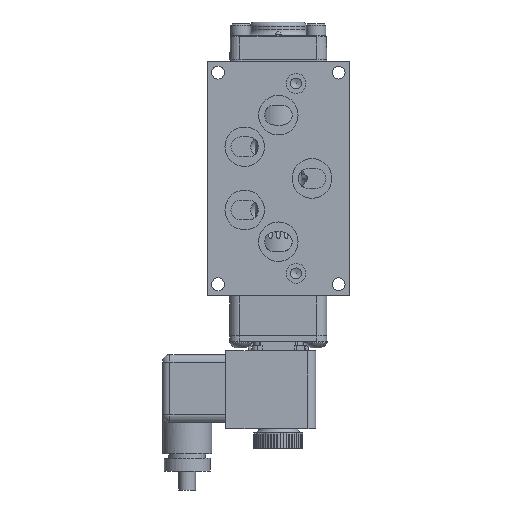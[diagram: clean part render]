
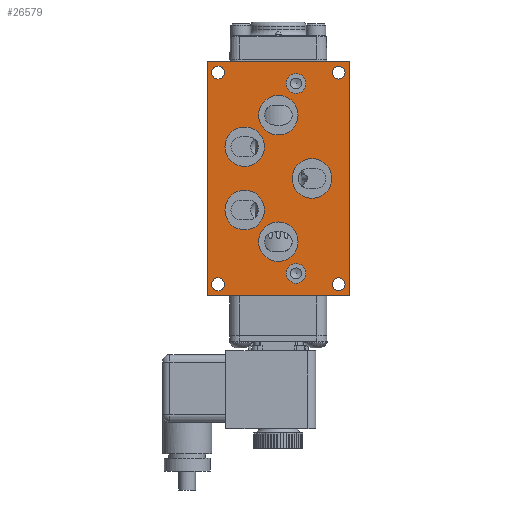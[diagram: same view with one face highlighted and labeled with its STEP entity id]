
A CAD part, front view. The second image highlights one B-rep face of the part: STEP entity #26579.
In plain terms, the highlighted planar face has unit normal (0, -1, 0).
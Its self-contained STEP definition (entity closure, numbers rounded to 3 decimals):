
#382=FACE_BOUND('',#4471,.T.);
#383=FACE_BOUND('',#4472,.T.);
#384=FACE_BOUND('',#4473,.T.);
#385=FACE_BOUND('',#4474,.T.);
#386=FACE_BOUND('',#4475,.T.);
#387=FACE_BOUND('',#4476,.T.);
#388=FACE_BOUND('',#4477,.T.);
#389=FACE_BOUND('',#4478,.T.);
#390=FACE_BOUND('',#4479,.T.);
#391=FACE_BOUND('',#4480,.T.);
#392=FACE_BOUND('',#4481,.T.);
#1227=CIRCLE('',#28413,0.396);
#1228=CIRCLE('',#28414,0.396);
#1234=CIRCLE('',#28424,0.396);
#1235=CIRCLE('',#28425,0.396);
#1238=CIRCLE('',#28431,0.794);
#1239=CIRCLE('',#28432,0.794);
#1242=CIRCLE('',#28437,0.794);
#1243=CIRCLE('',#28438,0.794);
#1246=CIRCLE('',#28443,0.794);
#1247=CIRCLE('',#28444,0.794);
#1250=CIRCLE('',#28449,0.794);
#1251=CIRCLE('',#28450,0.794);
#1254=CIRCLE('',#28455,0.794);
#1255=CIRCLE('',#28456,0.794);
#1258=CIRCLE('',#28461,0.258);
#1261=CIRCLE('',#28466,0.258);
#1264=CIRCLE('',#28471,0.258);
#1267=CIRCLE('',#28476,0.258);
#2891=FACE_OUTER_BOUND('',#4470,.T.);
#4470=EDGE_LOOP('',(#17962,#17963,#17964,#17965));
#4471=EDGE_LOOP('',(#17966,#17967));
#4472=EDGE_LOOP('',(#17968,#17969));
#4473=EDGE_LOOP('',(#17970,#17971));
#4474=EDGE_LOOP('',(#17972,#17973));
#4475=EDGE_LOOP('',(#17974,#17975));
#4476=EDGE_LOOP('',(#17976,#17977));
#4477=EDGE_LOOP('',(#17978,#17979));
#4478=EDGE_LOOP('',(#17980));
#4479=EDGE_LOOP('',(#17981));
#4480=EDGE_LOOP('',(#17982));
#4481=EDGE_LOOP('',(#17983));
#6157=LINE('',#40203,#7975);
#6168=LINE('',#40233,#7986);
#6287=LINE('',#41227,#8105);
#6288=LINE('',#41231,#8106);
#7975=VECTOR('',#31845,1.);
#7986=VECTOR('',#31866,1.);
#8105=VECTOR('',#32529,1.);
#8106=VECTOR('',#32536,1.);
#10379=VERTEX_POINT('',#40199);
#10381=VERTEX_POINT('',#40202);
#10393=VERTEX_POINT('',#40229);
#10395=VERTEX_POINT('',#40232);
#10551=VERTEX_POINT('',#41080);
#10552=VERTEX_POINT('',#41081);
#10559=VERTEX_POINT('',#41102);
#10560=VERTEX_POINT('',#41103);
#10563=VERTEX_POINT('',#41115);
#10564=VERTEX_POINT('',#41116);
#10567=VERTEX_POINT('',#41126);
#10568=VERTEX_POINT('',#41127);
#10571=VERTEX_POINT('',#41137);
#10572=VERTEX_POINT('',#41138);
#10575=VERTEX_POINT('',#41148);
#10576=VERTEX_POINT('',#41149);
#10579=VERTEX_POINT('',#41159);
#10580=VERTEX_POINT('',#41160);
#10584=VERTEX_POINT('',#41173);
#10588=VERTEX_POINT('',#41185);
#10592=VERTEX_POINT('',#41197);
#10596=VERTEX_POINT('',#41209);
#13040=EDGE_CURVE('',#10381,#10379,#6157,.T.);
#13055=EDGE_CURVE('',#10395,#10393,#6168,.T.);
#13283=EDGE_CURVE('',#10551,#10552,#1227,.T.);
#13284=EDGE_CURVE('',#10552,#10551,#1228,.T.);
#13293=EDGE_CURVE('',#10559,#10560,#1234,.T.);
#13294=EDGE_CURVE('',#10560,#10559,#1235,.T.);
#13299=EDGE_CURVE('',#10563,#10564,#1238,.T.);
#13300=EDGE_CURVE('',#10564,#10563,#1239,.T.);
#13304=EDGE_CURVE('',#10567,#10568,#1242,.T.);
#13305=EDGE_CURVE('',#10568,#10567,#1243,.T.);
#13309=EDGE_CURVE('',#10571,#10572,#1246,.T.);
#13310=EDGE_CURVE('',#10572,#10571,#1247,.T.);
#13314=EDGE_CURVE('',#10575,#10576,#1250,.T.);
#13315=EDGE_CURVE('',#10576,#10575,#1251,.T.);
#13319=EDGE_CURVE('',#10579,#10580,#1254,.T.);
#13320=EDGE_CURVE('',#10580,#10579,#1255,.T.);
#13327=EDGE_CURVE('',#10584,#10584,#1258,.T.);
#13333=EDGE_CURVE('',#10588,#10588,#1261,.T.);
#13339=EDGE_CURVE('',#10592,#10592,#1264,.T.);
#13345=EDGE_CURVE('',#10596,#10596,#1267,.T.);
#13354=EDGE_CURVE('',#10393,#10381,#6287,.T.);
#13355=EDGE_CURVE('',#10379,#10395,#6288,.T.);
#17962=ORIENTED_EDGE('',*,*,#13055,.T.);
#17963=ORIENTED_EDGE('',*,*,#13354,.T.);
#17964=ORIENTED_EDGE('',*,*,#13040,.T.);
#17965=ORIENTED_EDGE('',*,*,#13355,.T.);
#17966=ORIENTED_EDGE('',*,*,#13283,.T.);
#17967=ORIENTED_EDGE('',*,*,#13284,.T.);
#17968=ORIENTED_EDGE('',*,*,#13293,.T.);
#17969=ORIENTED_EDGE('',*,*,#13294,.T.);
#17970=ORIENTED_EDGE('',*,*,#13299,.T.);
#17971=ORIENTED_EDGE('',*,*,#13300,.T.);
#17972=ORIENTED_EDGE('',*,*,#13304,.T.);
#17973=ORIENTED_EDGE('',*,*,#13305,.T.);
#17974=ORIENTED_EDGE('',*,*,#13309,.T.);
#17975=ORIENTED_EDGE('',*,*,#13310,.T.);
#17976=ORIENTED_EDGE('',*,*,#13314,.T.);
#17977=ORIENTED_EDGE('',*,*,#13315,.T.);
#17978=ORIENTED_EDGE('',*,*,#13319,.T.);
#17979=ORIENTED_EDGE('',*,*,#13320,.T.);
#17980=ORIENTED_EDGE('',*,*,#13327,.T.);
#17981=ORIENTED_EDGE('',*,*,#13333,.T.);
#17982=ORIENTED_EDGE('',*,*,#13339,.T.);
#17983=ORIENTED_EDGE('',*,*,#13345,.T.);
#24199=PLANE('',#28487);
#26579=ADVANCED_FACE('',(#2891,#382,#383,#384,#385,#386,#387,#388,#389,
#390,#391,#392),#24199,.T.);
#28413=AXIS2_PLACEMENT_3D('',#41082,#32357,#32358);
#28414=AXIS2_PLACEMENT_3D('',#41083,#32359,#32360);
#28424=AXIS2_PLACEMENT_3D('',#41104,#32382,#32383);
#28425=AXIS2_PLACEMENT_3D('',#41105,#32384,#32385);
#28431=AXIS2_PLACEMENT_3D('',#41117,#32398,#32399);
#28432=AXIS2_PLACEMENT_3D('',#41118,#32400,#32401);
#28437=AXIS2_PLACEMENT_3D('',#41128,#32411,#32412);
#28438=AXIS2_PLACEMENT_3D('',#41129,#32413,#32414);
#28443=AXIS2_PLACEMENT_3D('',#41139,#32424,#32425);
#28444=AXIS2_PLACEMENT_3D('',#41140,#32426,#32427);
#28449=AXIS2_PLACEMENT_3D('',#41150,#32437,#32438);
#28450=AXIS2_PLACEMENT_3D('',#41151,#32439,#32440);
#28455=AXIS2_PLACEMENT_3D('',#41161,#32450,#32451);
#28456=AXIS2_PLACEMENT_3D('',#41162,#32452,#32453);
#28461=AXIS2_PLACEMENT_3D('',#41175,#32466,#32467);
#28466=AXIS2_PLACEMENT_3D('',#41187,#32479,#32480);
#28471=AXIS2_PLACEMENT_3D('',#41199,#32492,#32493);
#28476=AXIS2_PLACEMENT_3D('',#41211,#32505,#32506);
#28487=AXIS2_PLACEMENT_3D('',#41232,#32537,#32538);
#31845=DIRECTION('',(1.,0.,0.));
#31866=DIRECTION('',(-1.,0.,0.));
#32357=DIRECTION('center_axis',(0.,1.,0.));
#32358=DIRECTION('ref_axis',(1.,0.,0.));
#32359=DIRECTION('center_axis',(0.,1.,0.));
#32360=DIRECTION('ref_axis',(1.,0.,0.));
#32382=DIRECTION('center_axis',(0.,1.,0.));
#32383=DIRECTION('ref_axis',(1.,0.,0.));
#32384=DIRECTION('center_axis',(0.,1.,0.));
#32385=DIRECTION('ref_axis',(1.,0.,0.));
#32398=DIRECTION('center_axis',(0.,1.,0.));
#32399=DIRECTION('ref_axis',(1.,0.,0.));
#32400=DIRECTION('center_axis',(0.,1.,0.));
#32401=DIRECTION('ref_axis',(1.,0.,0.));
#32411=DIRECTION('center_axis',(0.,1.,0.));
#32412=DIRECTION('ref_axis',(1.,0.,0.));
#32413=DIRECTION('center_axis',(0.,1.,0.));
#32414=DIRECTION('ref_axis',(1.,0.,0.));
#32424=DIRECTION('center_axis',(0.,1.,0.));
#32425=DIRECTION('ref_axis',(1.,0.,0.));
#32426=DIRECTION('center_axis',(0.,1.,0.));
#32427=DIRECTION('ref_axis',(1.,0.,0.));
#32437=DIRECTION('center_axis',(0.,1.,0.));
#32438=DIRECTION('ref_axis',(1.,0.,0.));
#32439=DIRECTION('center_axis',(0.,1.,0.));
#32440=DIRECTION('ref_axis',(1.,0.,0.));
#32450=DIRECTION('center_axis',(0.,1.,0.));
#32451=DIRECTION('ref_axis',(1.,0.,0.));
#32452=DIRECTION('center_axis',(0.,1.,0.));
#32453=DIRECTION('ref_axis',(1.,0.,0.));
#32466=DIRECTION('center_axis',(0.,1.,0.));
#32467=DIRECTION('ref_axis',(1.,0.,0.));
#32479=DIRECTION('center_axis',(0.,1.,0.));
#32480=DIRECTION('ref_axis',(1.,0.,0.));
#32492=DIRECTION('center_axis',(0.,1.,0.));
#32493=DIRECTION('ref_axis',(1.,0.,0.));
#32505=DIRECTION('center_axis',(0.,1.,0.));
#32506=DIRECTION('ref_axis',(1.,0.,0.));
#32529=DIRECTION('',(0.,0.,-1.));
#32536=DIRECTION('',(0.,0.,1.));
#32537=DIRECTION('center_axis',(0.,-1.,0.));
#32538=DIRECTION('ref_axis',(0.,0.,-1.));
#40199=CARTESIAN_POINT('',(2.858,-1.636,-4.71));
#40202=CARTESIAN_POINT('',(-2.858,-1.636,-4.71));
#40203=CARTESIAN_POINT('',(-2.858,-1.636,-4.71));
#40229=CARTESIAN_POINT('',(-2.858,-1.636,4.71));
#40232=CARTESIAN_POINT('',(2.858,-1.636,4.71));
#40233=CARTESIAN_POINT('',(-2.858,-1.636,4.71));
#41080=CARTESIAN_POINT('',(1.11,-1.636,-3.81));
#41081=CARTESIAN_POINT('',(0.318,-1.636,-3.81));
#41082=CARTESIAN_POINT('Origin',(0.714,-1.636,-3.81));
#41083=CARTESIAN_POINT('Origin',(0.714,-1.636,-3.81));
#41102=CARTESIAN_POINT('',(1.11,-1.636,3.81));
#41103=CARTESIAN_POINT('',(0.318,-1.636,3.81));
#41104=CARTESIAN_POINT('Origin',(0.714,-1.636,3.81));
#41105=CARTESIAN_POINT('Origin',(0.714,-1.636,3.81));
#41115=CARTESIAN_POINT('',(2.142,-1.636,0.));
#41116=CARTESIAN_POINT('',(0.555,-1.636,0.));
#41117=CARTESIAN_POINT('Origin',(1.349,-1.636,0.));
#41118=CARTESIAN_POINT('Origin',(1.349,-1.636,0.));
#41126=CARTESIAN_POINT('',(0.794,-1.636,-2.54));
#41127=CARTESIAN_POINT('',(-0.794,-1.636,-2.54));
#41128=CARTESIAN_POINT('Origin',(0.,-1.636,-2.54));
#41129=CARTESIAN_POINT('Origin',(0.,-1.636,-2.54));
#41137=CARTESIAN_POINT('',(0.794,-1.636,2.54));
#41138=CARTESIAN_POINT('',(-0.794,-1.636,2.54));
#41139=CARTESIAN_POINT('Origin',(0.,-1.636,2.54));
#41140=CARTESIAN_POINT('Origin',(0.,-1.636,2.54));
#41148=CARTESIAN_POINT('',(-0.555,-1.636,-1.27));
#41149=CARTESIAN_POINT('',(-2.142,-1.636,-1.27));
#41150=CARTESIAN_POINT('Origin',(-1.349,-1.636,-1.27));
#41151=CARTESIAN_POINT('Origin',(-1.349,-1.636,-1.27));
#41159=CARTESIAN_POINT('',(-0.555,-1.636,1.27));
#41160=CARTESIAN_POINT('',(-2.142,-1.636,1.27));
#41161=CARTESIAN_POINT('Origin',(-1.349,-1.636,1.27));
#41162=CARTESIAN_POINT('Origin',(-1.349,-1.636,1.27));
#41173=CARTESIAN_POINT('',(-2.679,-1.636,4.247));
#41175=CARTESIAN_POINT('Origin',(-2.421,-1.636,4.247));
#41185=CARTESIAN_POINT('',(2.163,-1.636,4.247));
#41187=CARTESIAN_POINT('Origin',(2.421,-1.636,4.247));
#41197=CARTESIAN_POINT('',(2.163,-1.636,-4.247));
#41199=CARTESIAN_POINT('Origin',(2.421,-1.636,-4.247));
#41209=CARTESIAN_POINT('',(-2.679,-1.636,-4.247));
#41211=CARTESIAN_POINT('Origin',(-2.421,-1.636,-4.247));
#41227=CARTESIAN_POINT('',(-2.858,-1.636,0.));
#41231=CARTESIAN_POINT('',(2.858,-1.636,0.));
#41232=CARTESIAN_POINT('Origin',(2.858,-1.636,0.));
